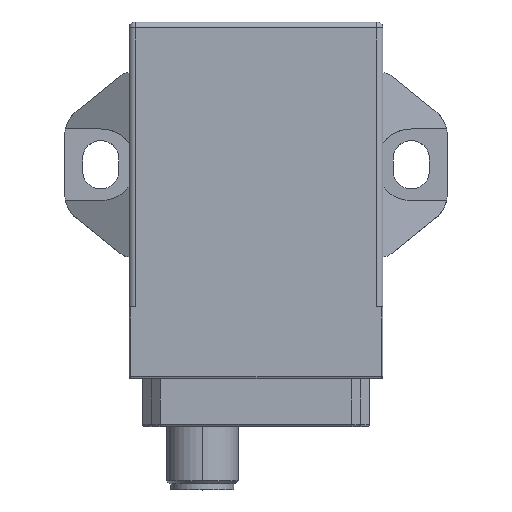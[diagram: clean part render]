
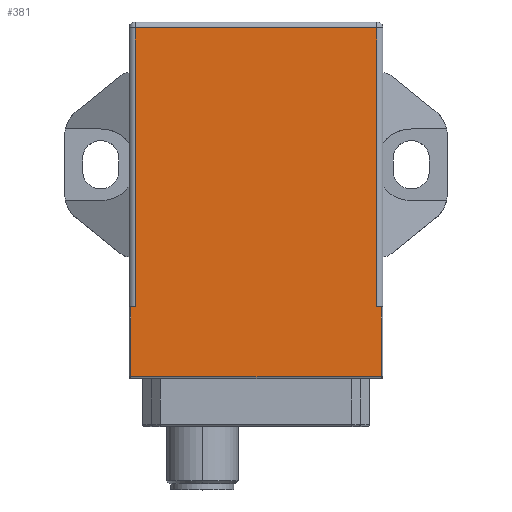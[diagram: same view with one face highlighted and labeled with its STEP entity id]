
A CAD part, top view. The second image highlights one B-rep face of the part: STEP entity #381.
In plain terms, the highlighted planar face has unit normal (0, 0, 1).
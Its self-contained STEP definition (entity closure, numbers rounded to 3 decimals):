
#72 = EDGE_LOOP ( 'NONE', ( #1214, #1144, #1160, #1128, #1218, #1119, #1159, #339 ) ) ;
#339 = ORIENTED_EDGE ( 'NONE', *, *, #1863, .T. ) ;
#381 = ADVANCED_FACE ( 'NONE', ( #2226 ), #2781, .T. ) ;
#1119 = ORIENTED_EDGE ( 'NONE', *, *, #1820, .F. ) ;
#1128 = ORIENTED_EDGE ( 'NONE', *, *, #1751, .T. ) ;
#1144 = ORIENTED_EDGE ( 'NONE', *, *, #1776, .F. ) ;
#1159 = ORIENTED_EDGE ( 'NONE', *, *, #1828, .F. ) ;
#1160 = ORIENTED_EDGE ( 'NONE', *, *, #1777, .F. ) ;
#1214 = ORIENTED_EDGE ( 'NONE', *, *, #1772, .F. ) ;
#1218 = ORIENTED_EDGE ( 'NONE', *, *, #1755, .F. ) ;
#1243 = VERTEX_POINT ( 'NONE', #5167 ) ;
#1269 = VERTEX_POINT ( 'NONE', #5190 ) ;
#1283 = VERTEX_POINT ( 'NONE', #5204 ) ;
#1302 = VERTEX_POINT ( 'NONE', #5223 ) ;
#1316 = VERTEX_POINT ( 'NONE', #5237 ) ;
#1322 = VERTEX_POINT ( 'NONE', #5243 ) ;
#1376 = VERTEX_POINT ( 'NONE', #5297 ) ;
#1439 = VERTEX_POINT ( 'NONE', #5360 ) ;
#1751 = EDGE_CURVE ( 'NONE', #1316, #1243, #4678, .T. ) ;
#1755 = EDGE_CURVE ( 'NONE', #1302, #1243, #4686, .T. ) ;
#1772 = EDGE_CURVE ( 'NONE', #1269, #1322, #4711, .T. ) ;
#1776 = EDGE_CURVE ( 'NONE', #1439, #1269, #4713, .T. ) ;
#1777 = EDGE_CURVE ( 'NONE', #1316, #1439, #4720, .T. ) ;
#1820 = EDGE_CURVE ( 'NONE', #1283, #1302, #4791, .T. ) ;
#1828 = EDGE_CURVE ( 'NONE', #1376, #1283, #4803, .T. ) ;
#1863 = EDGE_CURVE ( 'NONE', #1376, #1322, #4850, .T. ) ;
#1972 = AXIS2_PLACEMENT_3D ( 'NONE', #2774, #2784, #2785 ) ;
#2226 = FACE_OUTER_BOUND ( 'NONE', #72, .T. ) ;
#2774 = CARTESIAN_POINT ( 'NONE',  ( -5.334, 6.511, 19.824 ) ) ;
#2781 = PLANE ( 'NONE',  #1972 ) ;
#2784 = DIRECTION ( 'NONE',  ( 0., 0., 1. ) ) ;
#2785 = DIRECTION ( 'NONE',  ( 1., 0., 0. ) ) ;
#4678 = LINE ( 'NONE', #5649, #4682 ) ;
#4682 = VECTOR ( 'NONE', #5654, 1000. ) ;
#4686 = LINE ( 'NONE', #5661, #4688 ) ;
#4688 = VECTOR ( 'NONE', #5656, 1000. ) ;
#4711 = LINE ( 'NONE', #5707, #4714 ) ;
#4713 = LINE ( 'NONE', #5712, #4721 ) ;
#4714 = VECTOR ( 'NONE', #5709, 1000. ) ;
#4720 = LINE ( 'NONE', #5718, #4723 ) ;
#4721 = VECTOR ( 'NONE', #5717, 1000. ) ;
#4723 = VECTOR ( 'NONE', #5719, 1000. ) ;
#4791 = LINE ( 'NONE', #5819, #4794 ) ;
#4794 = VECTOR ( 'NONE', #5820, 1000. ) ;
#4803 = LINE ( 'NONE', #5841, #4806 ) ;
#4806 = VECTOR ( 'NONE', #5842, 1000. ) ;
#4850 = LINE ( 'NONE', #5920, #4855 ) ;
#4855 = VECTOR ( 'NONE', #5917, 1000. ) ;
#5167 = CARTESIAN_POINT ( 'NONE',  ( -26.284, -17.339, 19.824 ) ) ;
#5190 = CARTESIAN_POINT ( 'NONE',  ( 14.916, 29.361, 19.824 ) ) ;
#5204 = CARTESIAN_POINT ( 'NONE',  ( 15.616, -29.039, 19.824 ) ) ;
#5223 = CARTESIAN_POINT ( 'NONE',  ( -26.284, -29.039, 19.824 ) ) ;
#5237 = CARTESIAN_POINT ( 'NONE',  ( -25.584, -17.339, 19.824 ) ) ;
#5243 = CARTESIAN_POINT ( 'NONE',  ( 14.916, -17.339, 19.824 ) ) ;
#5297 = CARTESIAN_POINT ( 'NONE',  ( 15.616, -17.339, 19.824 ) ) ;
#5360 = CARTESIAN_POINT ( 'NONE',  ( -25.584, 29.361, 19.824 ) ) ;
#5649 = CARTESIAN_POINT ( 'NONE',  ( 15.916, -17.339, 19.824 ) ) ;
#5654 = DIRECTION ( 'NONE',  ( -1., 0., 0. ) ) ;
#5656 = DIRECTION ( 'NONE',  ( 0., 1., 0. ) ) ;
#5661 = CARTESIAN_POINT ( 'NONE',  ( -26.284, -17.339, 19.824 ) ) ;
#5707 = CARTESIAN_POINT ( 'NONE',  ( 14.916, -5.414, 19.824 ) ) ;
#5709 = DIRECTION ( 'NONE',  ( 0., -1., 0. ) ) ;
#5712 = CARTESIAN_POINT ( 'NONE',  ( 5.291, 29.361, 19.824 ) ) ;
#5717 = DIRECTION ( 'NONE',  ( 1., 0., 0. ) ) ;
#5718 = CARTESIAN_POINT ( 'NONE',  ( -25.584, 18.436, 19.824 ) ) ;
#5719 = DIRECTION ( 'NONE',  ( 0., 1., 0. ) ) ;
#5819 = CARTESIAN_POINT ( 'NONE',  ( -15.959, -29.039, 19.824 ) ) ;
#5820 = DIRECTION ( 'NONE',  ( -1., 0., 0. ) ) ;
#5841 = CARTESIAN_POINT ( 'NONE',  ( 15.616, -17.339, 19.824 ) ) ;
#5842 = DIRECTION ( 'NONE',  ( 0., -1., 0. ) ) ;
#5917 = DIRECTION ( 'NONE',  ( -1., 0., 0. ) ) ;
#5920 = CARTESIAN_POINT ( 'NONE',  ( 15.916, -17.339, 19.824 ) ) ;
